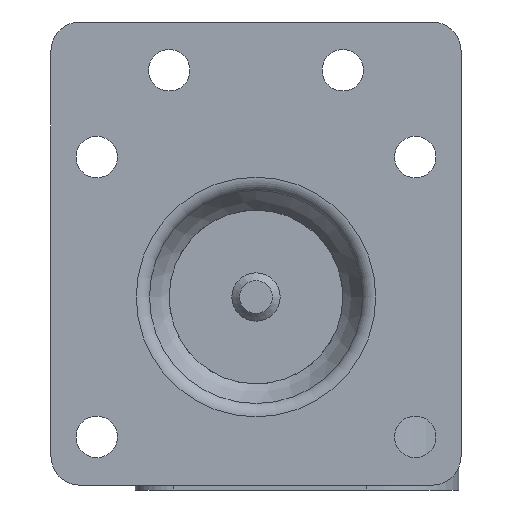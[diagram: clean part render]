
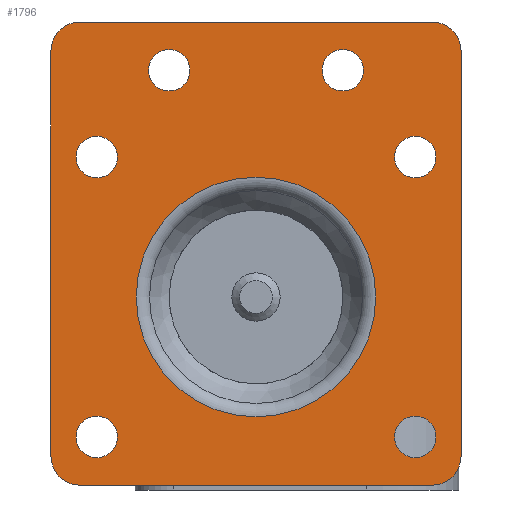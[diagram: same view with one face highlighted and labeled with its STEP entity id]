
A CAD part, front view. The second image highlights one B-rep face of the part: STEP entity #1796.
In plain terms, the highlighted planar face has unit normal (0, -1, 0) as drawn and (0, 1, 0) by its records, which use the part's own axes.
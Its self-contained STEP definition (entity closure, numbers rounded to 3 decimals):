
#550=LINE('',#11569,#1119);
#551=LINE('',#11574,#1120);
#552=LINE('',#11578,#1121);
#553=LINE('',#11582,#1122);
#1119=VECTOR('',#9164,1.);
#1120=VECTOR('',#9167,1.);
#1121=VECTOR('',#9170,1.);
#1122=VECTOR('',#9173,1.);
#1665=FACE_BOUND('',#2870,.T.);
#1666=FACE_BOUND('',#2871,.T.);
#1667=FACE_BOUND('',#2872,.T.);
#1668=FACE_BOUND('',#2873,.T.);
#1669=FACE_BOUND('',#2874,.T.);
#1670=FACE_BOUND('',#2875,.T.);
#1671=FACE_BOUND('',#2876,.T.);
#1672=FACE_BOUND('',#2877,.T.);
#1796=ADVANCED_FACE('',(#1665,#1666,#1667,#1668,#1669,#1670,#1671,#1672),
#2166,.T.);
#2166=PLANE('',#7947);
#2870=EDGE_LOOP('',(#3675));
#2871=EDGE_LOOP('',(#3676));
#2872=EDGE_LOOP('',(#3677,#3678,#3679,#3680,#3681,#3682,#3683,#3684));
#2873=EDGE_LOOP('',(#3685));
#2874=EDGE_LOOP('',(#3686));
#2875=EDGE_LOOP('',(#3687));
#2876=EDGE_LOOP('',(#3688));
#2877=EDGE_LOOP('',(#3689));
#3675=ORIENTED_EDGE('',*,*,#6496,.T.);
#3676=ORIENTED_EDGE('',*,*,#6497,.F.);
#3677=ORIENTED_EDGE('',*,*,#6498,.F.);
#3678=ORIENTED_EDGE('',*,*,#6499,.T.);
#3679=ORIENTED_EDGE('',*,*,#6500,.T.);
#3680=ORIENTED_EDGE('',*,*,#6501,.T.);
#3681=ORIENTED_EDGE('',*,*,#6502,.T.);
#3682=ORIENTED_EDGE('',*,*,#6503,.T.);
#3683=ORIENTED_EDGE('',*,*,#6504,.T.);
#3684=ORIENTED_EDGE('',*,*,#6505,.T.);
#3685=ORIENTED_EDGE('',*,*,#6506,.F.);
#3686=ORIENTED_EDGE('',*,*,#6507,.F.);
#3687=ORIENTED_EDGE('',*,*,#6508,.T.);
#3688=ORIENTED_EDGE('',*,*,#6509,.T.);
#3689=ORIENTED_EDGE('',*,*,#6510,.T.);
#5655=VERTEX_POINT('',#11566);
#5656=VERTEX_POINT('',#11568);
#5657=VERTEX_POINT('',#11570);
#5658=VERTEX_POINT('',#11571);
#5659=VERTEX_POINT('',#11573);
#5660=VERTEX_POINT('',#11575);
#5661=VERTEX_POINT('',#11577);
#5662=VERTEX_POINT('',#11579);
#5663=VERTEX_POINT('',#11581);
#5664=VERTEX_POINT('',#11583);
#5665=VERTEX_POINT('',#11586);
#5666=VERTEX_POINT('',#11588);
#5667=VERTEX_POINT('',#11590);
#5668=VERTEX_POINT('',#11592);
#5669=VERTEX_POINT('',#11594);
#6496=EDGE_CURVE('',#5655,#5655,#7465,.T.);
#6497=EDGE_CURVE('',#5656,#5656,#7466,.T.);
#6498=EDGE_CURVE('',#5657,#5658,#550,.T.);
#6499=EDGE_CURVE('',#5657,#5659,#7467,.T.);
#6500=EDGE_CURVE('',#5659,#5660,#551,.T.);
#6501=EDGE_CURVE('',#5660,#5661,#7468,.T.);
#6502=EDGE_CURVE('',#5661,#5662,#552,.T.);
#6503=EDGE_CURVE('',#5662,#5663,#7469,.T.);
#6504=EDGE_CURVE('',#5663,#5664,#553,.T.);
#6505=EDGE_CURVE('',#5664,#5658,#7470,.T.);
#6506=EDGE_CURVE('',#5665,#5665,#7471,.T.);
#6507=EDGE_CURVE('',#5666,#5666,#7472,.T.);
#6508=EDGE_CURVE('',#5667,#5667,#7473,.T.);
#6509=EDGE_CURVE('',#5668,#5668,#7474,.T.);
#6510=EDGE_CURVE('',#5669,#5669,#7475,.T.);
#7465=CIRCLE('',#7936,12.416);
#7466=CIRCLE('',#7937,2.15);
#7467=CIRCLE('',#7938,3.);
#7468=CIRCLE('',#7939,3.);
#7469=CIRCLE('',#7940,3.);
#7470=CIRCLE('',#7941,3.);
#7471=CIRCLE('',#7942,2.15);
#7472=CIRCLE('',#7943,2.15);
#7473=CIRCLE('',#7944,2.15);
#7474=CIRCLE('',#7945,2.15);
#7475=CIRCLE('',#7946,2.15);
#7936=AXIS2_PLACEMENT_3D('',#11565,#9160,#9161);
#7937=AXIS2_PLACEMENT_3D('',#11567,#9162,#9163);
#7938=AXIS2_PLACEMENT_3D('',#11572,#9165,#9166);
#7939=AXIS2_PLACEMENT_3D('',#11576,#9168,#9169);
#7940=AXIS2_PLACEMENT_3D('',#11580,#9171,#9172);
#7941=AXIS2_PLACEMENT_3D('',#11584,#9174,#9175);
#7942=AXIS2_PLACEMENT_3D('',#11585,#9176,#9177);
#7943=AXIS2_PLACEMENT_3D('',#11587,#9178,#9179);
#7944=AXIS2_PLACEMENT_3D('',#11589,#9180,#9181);
#7945=AXIS2_PLACEMENT_3D('',#11591,#9182,#9183);
#7946=AXIS2_PLACEMENT_3D('',#11593,#9184,#9185);
#7947=AXIS2_PLACEMENT_3D('',#11595,#9186,#9187);
#9160=DIRECTION('',(0.,-1.,0.));
#9161=DIRECTION('',(0.,0.,1.));
#9162=DIRECTION('',(0.,1.,0.));
#9163=DIRECTION('',(0.,0.,1.));
#9164=DIRECTION('',(-1.,0.,0.));
#9165=DIRECTION('',(0.,1.,0.));
#9166=DIRECTION('',(0.,0.,1.));
#9167=DIRECTION('',(0.,0.,-1.));
#9168=DIRECTION('',(0.,1.,0.));
#9169=DIRECTION('',(0.,0.,1.));
#9170=DIRECTION('',(-1.,0.,0.));
#9171=DIRECTION('',(0.,1.,0.));
#9172=DIRECTION('',(0.,0.,1.));
#9173=DIRECTION('',(0.,0.,1.));
#9174=DIRECTION('',(0.,1.,0.));
#9175=DIRECTION('',(0.,0.,1.));
#9176=DIRECTION('',(0.,1.,0.));
#9177=DIRECTION('',(0.,0.,1.));
#9178=DIRECTION('',(0.,1.,0.));
#9179=DIRECTION('',(0.,0.,1.));
#9180=DIRECTION('',(0.,-1.,0.));
#9181=DIRECTION('',(0.,0.,1.));
#9182=DIRECTION('',(0.,-1.,0.));
#9183=DIRECTION('',(0.,0.,1.));
#9184=DIRECTION('',(0.,-1.,0.));
#9185=DIRECTION('',(0.,0.,1.));
#9186=DIRECTION('',(0.,1.,0.));
#9187=DIRECTION('',(0.,0.,1.));
#11565=CARTESIAN_POINT('',(21.25,1.5,19.5));
#11566=CARTESIAN_POINT('',(21.25,1.5,31.916));
#11567=CARTESIAN_POINT('',(37.75,1.5,34.));
#11568=CARTESIAN_POINT('',(37.75,1.5,36.15));
#11569=CARTESIAN_POINT('',(42.5,1.5,48.));
#11570=CARTESIAN_POINT('',(39.5,1.5,48.));
#11571=CARTESIAN_POINT('',(3.,1.5,48.));
#11572=CARTESIAN_POINT('',(39.5,1.5,45.));
#11573=CARTESIAN_POINT('',(42.5,1.5,45.));
#11574=CARTESIAN_POINT('',(42.5,1.5,37.5));
#11575=CARTESIAN_POINT('',(42.5,1.5,3.));
#11576=CARTESIAN_POINT('',(39.5,1.5,3.));
#11577=CARTESIAN_POINT('',(39.5,1.5,0.));
#11578=CARTESIAN_POINT('',(42.5,1.5,0.));
#11579=CARTESIAN_POINT('',(3.,1.5,0.));
#11580=CARTESIAN_POINT('',(3.,1.5,3.));
#11581=CARTESIAN_POINT('',(0.,1.5,3.));
#11582=CARTESIAN_POINT('',(0.,1.5,0.));
#11583=CARTESIAN_POINT('',(0.,1.5,45.));
#11584=CARTESIAN_POINT('',(3.,1.5,45.));
#11585=CARTESIAN_POINT('',(4.75,1.5,5.));
#11586=CARTESIAN_POINT('',(4.75,1.5,7.15));
#11587=CARTESIAN_POINT('',(37.75,1.5,5.));
#11588=CARTESIAN_POINT('',(37.75,1.5,7.15));
#11589=CARTESIAN_POINT('',(4.75,1.5,34.));
#11590=CARTESIAN_POINT('',(4.75,1.5,36.15));
#11591=CARTESIAN_POINT('',(12.25,1.5,43.));
#11592=CARTESIAN_POINT('',(12.25,1.5,45.15));
#11593=CARTESIAN_POINT('',(30.25,1.5,43.));
#11594=CARTESIAN_POINT('',(30.25,1.5,45.15));
#11595=CARTESIAN_POINT('',(0.,1.5,0.));
